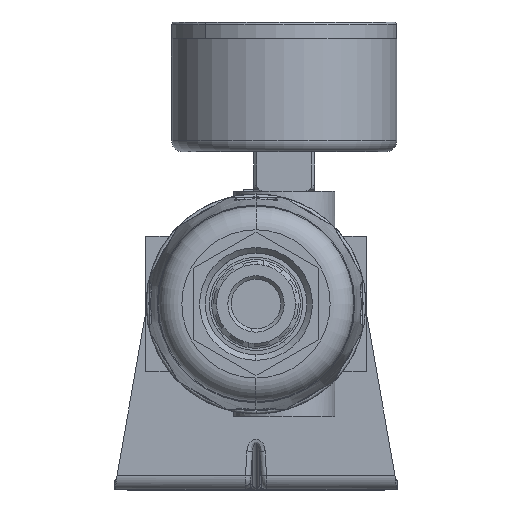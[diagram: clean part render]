
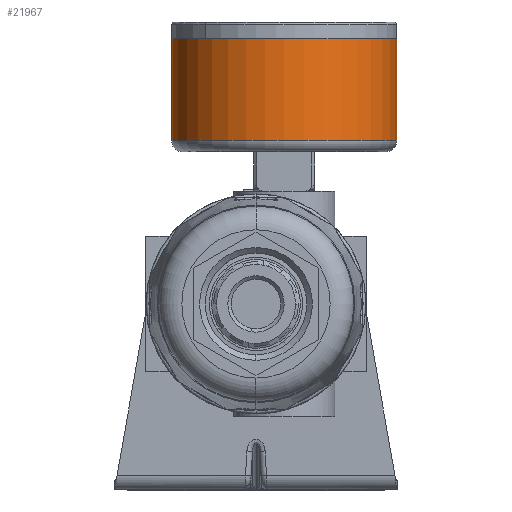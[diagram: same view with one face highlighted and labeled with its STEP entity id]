
A CAD part, front view. The second image highlights one B-rep face of the part: STEP entity #21967.
In plain terms, the highlighted cylindrical face has radius 20 mm (diameter 40 mm), a partial arc.
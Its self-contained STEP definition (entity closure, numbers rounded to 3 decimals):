
#824 = ORIENTED_EDGE ( 'NONE', *, *, #46275, .F. ) ;
#2196 = DIRECTION ( 'NONE',  ( 0., 0., -1. ) ) ;
#3103 = DIRECTION ( 'NONE',  ( 0., 0., -1. ) ) ;
#5024 = AXIS2_PLACEMENT_3D ( 'NONE', #51858, #2196, #8404 ) ;
#8404 = DIRECTION ( 'NONE',  ( -1., 0., 0. ) ) ;
#10042 = DIRECTION ( 'NONE',  ( 0., 0., -1. ) ) ;
#11428 = CARTESIAN_POINT ( 'NONE',  ( 20., 0., 2. ) ) ;
#12317 = AXIS2_PLACEMENT_3D ( 'NONE', #28189, #3103, #21014 ) ;
#13777 = LINE ( 'NONE', #42112, #73948 ) ;
#14983 = ORIENTED_EDGE ( 'NONE', *, *, #54459, .T. ) ;
#17871 = ORIENTED_EDGE ( 'NONE', *, *, #54175, .F. ) ;
#18543 = VECTOR ( 'NONE', #61524, 1000. ) ;
#19179 = CARTESIAN_POINT ( 'NONE',  ( -20., 0., 20. ) ) ;
#21014 = DIRECTION ( 'NONE',  ( -1., 0., 0. ) ) ;
#21273 = DIRECTION ( 'NONE',  ( -1., 0., 0. ) ) ;
#21967 = ADVANCED_FACE ( 'NONE', ( #71947 ), #48053, .T. ) ;
#26030 = EDGE_LOOP ( 'NONE', ( #824, #30088, #14983, #17871 ) ) ;
#28189 = CARTESIAN_POINT ( 'NONE',  ( 0., 0., 20. ) ) ;
#30088 = ORIENTED_EDGE ( 'NONE', *, *, #50285, .T. ) ;
#30745 = VERTEX_POINT ( 'NONE', #19179 ) ;
#33784 = CARTESIAN_POINT ( 'NONE',  ( 20., 0., 20. ) ) ;
#39081 = VERTEX_POINT ( 'NONE', #11428 ) ;
#42112 = CARTESIAN_POINT ( 'NONE',  ( -20., 0., 0. ) ) ;
#42786 = CIRCLE ( 'NONE', #12317, 20. ) ;
#46275 = EDGE_CURVE ( 'NONE', #71249, #39081, #50999, .T. ) ;
#46349 = CIRCLE ( 'NONE', #65792, 20. ) ;
#47911 = DIRECTION ( 'NONE',  ( 0., 0., -1. ) ) ;
#48053 = CYLINDRICAL_SURFACE ( 'NONE', #5024, 20. ) ;
#50285 = EDGE_CURVE ( 'NONE', #71249, #30745, #42786, .T. ) ;
#50999 = LINE ( 'NONE', #67066, #18543 ) ;
#51858 = CARTESIAN_POINT ( 'NONE',  ( 0., 0., 0. ) ) ;
#54175 = EDGE_CURVE ( 'NONE', #39081, #62796, #46349, .T. ) ;
#54459 = EDGE_CURVE ( 'NONE', #30745, #62796, #13777, .T. ) ;
#55247 = CARTESIAN_POINT ( 'NONE',  ( -20., 0., 2. ) ) ;
#58109 = CARTESIAN_POINT ( 'NONE',  ( 0., 0., 2. ) ) ;
#61524 = DIRECTION ( 'NONE',  ( 0., 0., -1. ) ) ;
#62796 = VERTEX_POINT ( 'NONE', #55247 ) ;
#65792 = AXIS2_PLACEMENT_3D ( 'NONE', #58109, #10042, #21273 ) ;
#67066 = CARTESIAN_POINT ( 'NONE',  ( 20., 0., 0. ) ) ;
#71249 = VERTEX_POINT ( 'NONE', #33784 ) ;
#71947 = FACE_OUTER_BOUND ( 'NONE', #26030, .T. ) ;
#73948 = VECTOR ( 'NONE', #47911, 1000. ) ;
